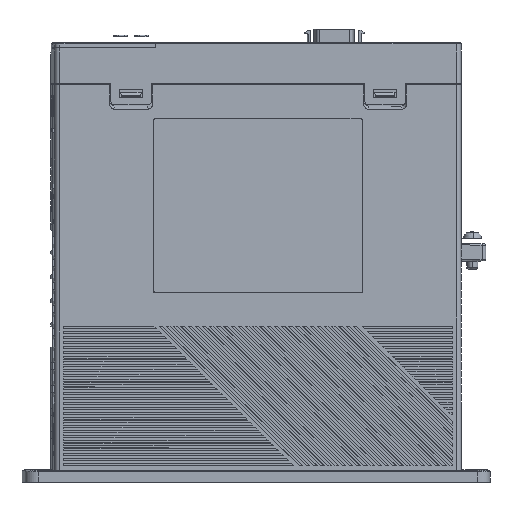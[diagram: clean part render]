
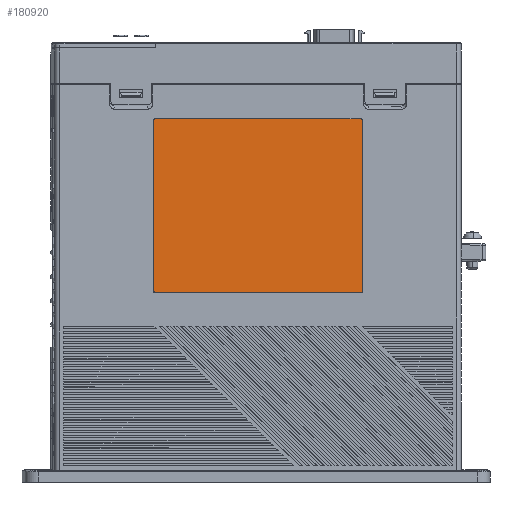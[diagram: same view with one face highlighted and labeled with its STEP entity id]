
A CAD part, top view. The second image highlights one B-rep face of the part: STEP entity #180920.
In plain terms, the highlighted planar face has unit normal (0.036, 0, 0.999).
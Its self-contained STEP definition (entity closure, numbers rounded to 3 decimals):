
#166720=CARTESIAN_POINT('',(50.6,142.504,
114.898));
#166721=CARTESIAN_POINT('',(50.6,142.545,
114.898));
#166722=CARTESIAN_POINT('',(50.61,142.618,
114.897));
#166723=CARTESIAN_POINT('',(50.652,142.741,
114.896));
#166724=CARTESIAN_POINT('',(50.738,142.862,
114.893));
#166725=CARTESIAN_POINT('',(50.859,142.948,
114.888));
#166726=CARTESIAN_POINT('',(50.982,142.99,
114.884));
#166727=CARTESIAN_POINT('',(51.055,143.,114.881));
#166728=CARTESIAN_POINT('',(51.096,143.,114.88));
#166730=DIRECTION('',(0.999,0.,-0.036));
#166731=VECTOR('',#166730,81.007);
#166732=CARTESIAN_POINT('',(51.096,143.,114.88));
#166733=LINE('',#166732,#166731);
#166734=CARTESIAN_POINT('',(132.051,143.,111.953));
#166735=CARTESIAN_POINT('',(132.092,143.,111.952));
#166736=CARTESIAN_POINT('',(132.165,142.99,
111.949));
#166737=CARTESIAN_POINT('',(132.288,142.948,
111.945));
#166738=CARTESIAN_POINT('',(132.409,142.862,
111.94));
#166739=CARTESIAN_POINT('',(132.495,142.741,
111.937));
#166740=CARTESIAN_POINT('',(132.537,142.618,
111.936));
#166741=CARTESIAN_POINT('',(132.547,142.545,
111.935));
#166742=CARTESIAN_POINT('',(132.547,142.504,
111.935));
#166744=DIRECTION('',(0.,-1.,0.));
#166745=VECTOR('',#166744,67.407);
#166746=CARTESIAN_POINT('',(132.547,142.504,
111.935));
#166747=LINE('',#166746,#166745);
#166748=CARTESIAN_POINT('',(132.547,75.096,
111.935));
#166749=CARTESIAN_POINT('',(132.547,75.055,
111.935));
#166750=CARTESIAN_POINT('',(132.537,74.982,
111.936));
#166751=CARTESIAN_POINT('',(132.495,74.859,
111.937));
#166752=CARTESIAN_POINT('',(132.409,74.738,
111.94));
#166753=CARTESIAN_POINT('',(132.288,74.652,
111.945));
#166754=CARTESIAN_POINT('',(132.165,74.61,
111.949));
#166755=CARTESIAN_POINT('',(132.092,74.6,
111.952));
#166756=CARTESIAN_POINT('',(132.051,74.6,
111.953));
#166758=DIRECTION('',(-0.999,0.,0.036));
#166759=VECTOR('',#166758,81.007);
#166760=CARTESIAN_POINT('',(132.051,74.6,111.953));
#166761=LINE('',#166760,#166759);
#166762=CARTESIAN_POINT('',(51.096,74.6,
114.88));
#166763=CARTESIAN_POINT('',(51.055,74.6,
114.881));
#166764=CARTESIAN_POINT('',(50.982,74.61,
114.884));
#166765=CARTESIAN_POINT('',(50.859,74.652,
114.888));
#166766=CARTESIAN_POINT('',(50.738,74.738,
114.893));
#166767=CARTESIAN_POINT('',(50.652,74.859,
114.896));
#166768=CARTESIAN_POINT('',(50.61,74.982,
114.897));
#166769=CARTESIAN_POINT('',(50.6,75.055,
114.898));
#166770=CARTESIAN_POINT('',(50.6,75.096,
114.898));
#166772=DIRECTION('',(0.,1.,0.));
#166773=VECTOR('',#166772,67.407);
#166774=CARTESIAN_POINT('',(50.6,75.096,
114.898));
#166775=LINE('',#166774,#166773);
#171554=CARTESIAN_POINT('',(132.547,142.504,
111.935));
#171555=VERTEX_POINT('',#171554);
#171556=CARTESIAN_POINT('',(132.547,75.096,
111.935));
#171557=VERTEX_POINT('',#171556);
#171558=VERTEX_POINT('',#166734);
#171559=VERTEX_POINT('',#166720);
#171560=VERTEX_POINT('',#166728);
#171561=VERTEX_POINT('',#166756);
#171562=CARTESIAN_POINT('',(51.096,74.6,114.88));
#171563=VERTEX_POINT('',#171562);
#171564=VERTEX_POINT('',#166770);
#180898=CARTESIAN_POINT('',(91.574,5.,113.417));
#180899=DIRECTION('',(0.036,0.,0.999));
#180900=DIRECTION('',(-0.999,0.,0.036));
#180901=AXIS2_PLACEMENT_3D('',#180898,#180899,#180900);
#180902=PLANE('',#180901);
#180904=ORIENTED_EDGE('',*,*,#180903,.T.);
#180906=ORIENTED_EDGE('',*,*,#180905,.T.);
#180908=ORIENTED_EDGE('',*,*,#180907,.T.);
#180909=ORIENTED_EDGE('',*,*,#180886,.T.);
#180911=ORIENTED_EDGE('',*,*,#180910,.T.);
#180913=ORIENTED_EDGE('',*,*,#180912,.T.);
#180915=ORIENTED_EDGE('',*,*,#180914,.T.);
#180917=ORIENTED_EDGE('',*,*,#180916,.T.);
#180918=EDGE_LOOP('',(#180904,#180906,#180908,#180909,#180911,#180913,#180915,
#180917));
#180919=FACE_OUTER_BOUND('',#180918,.F.);
#166729=B_SPLINE_CURVE_WITH_KNOTS('',3,(#166720,#166721,#166722,#166723,#166724,
#166725,#166726,#166727,#166728),.UNSPECIFIED.,.F.,.F.,(4,1,1,1,1,1,4),(0.,
0.125,0.25,0.5,0.75,0.875,1.),.UNSPECIFIED.);
#166743=B_SPLINE_CURVE_WITH_KNOTS('',3,(#166734,#166735,#166736,#166737,#166738,
#166739,#166740,#166741,#166742),.UNSPECIFIED.,.F.,.F.,(4,1,1,1,1,1,4),(0.,
0.125,0.25,0.5,0.75,0.875,1.),.UNSPECIFIED.);
#166757=B_SPLINE_CURVE_WITH_KNOTS('',3,(#166748,#166749,#166750,#166751,#166752,
#166753,#166754,#166755,#166756),.UNSPECIFIED.,.F.,.F.,(4,1,1,1,1,1,4),(0.,
0.125,0.25,0.5,0.75,0.875,1.),.UNSPECIFIED.);
#166771=B_SPLINE_CURVE_WITH_KNOTS('',3,(#166762,#166763,#166764,#166765,#166766,
#166767,#166768,#166769,#166770),.UNSPECIFIED.,.F.,.F.,(4,1,1,1,1,1,4),(0.,
0.125,0.25,0.5,0.75,0.875,1.),.UNSPECIFIED.);
#180886=EDGE_CURVE('',#171555,#171557,#166747,.T.);
#180903=EDGE_CURVE('',#171559,#171560,#166729,.T.);
#180905=EDGE_CURVE('',#171560,#171558,#166733,.T.);
#180907=EDGE_CURVE('',#171558,#171555,#166743,.T.);
#180910=EDGE_CURVE('',#171557,#171561,#166757,.T.);
#180912=EDGE_CURVE('',#171561,#171563,#166761,.T.);
#180914=EDGE_CURVE('',#171563,#171564,#166771,.T.);
#180916=EDGE_CURVE('',#171564,#171559,#166775,.T.);
#180920=ADVANCED_FACE('',(#180919),#180902,.T.);
